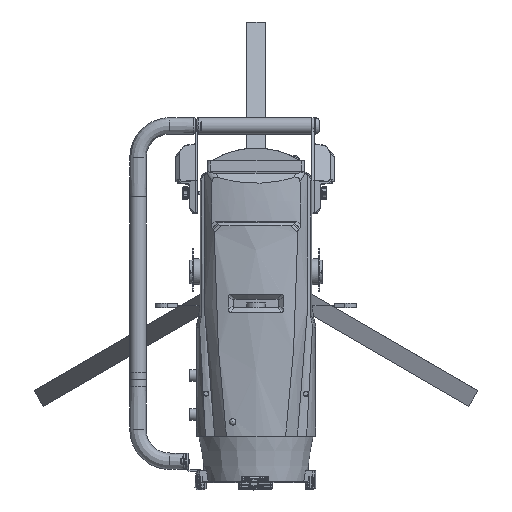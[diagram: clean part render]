
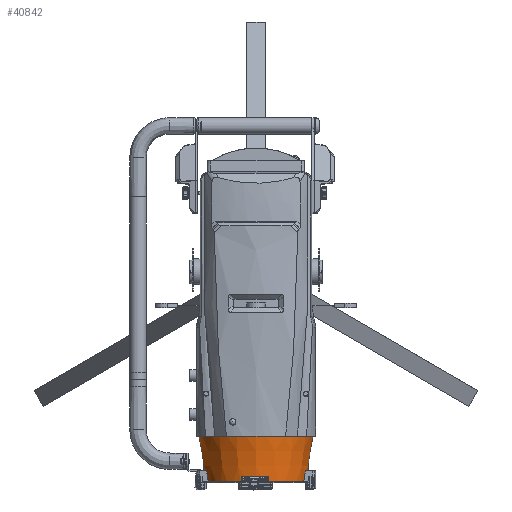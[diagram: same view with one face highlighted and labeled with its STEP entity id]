
A CAD part, top view. The second image highlights one B-rep face of the part: STEP entity #40842.
In plain terms, the highlighted conical face has half-angle 8 degrees and reference radius 109.134 mm.
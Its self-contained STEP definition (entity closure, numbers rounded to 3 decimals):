
#1069=CONICAL_SURFACE('',#43756,109.134,0.14);
#1882=B_SPLINE_CURVE_WITH_KNOTS('',3,(#57780,#57781,#57782,#57783),
 .UNSPECIFIED.,.F.,.F.,(4,4),(0.045,0.065),
 .UNSPECIFIED.);
#1883=B_SPLINE_CURVE_WITH_KNOTS('',3,(#57788,#57789,#57790,#57791),
 .UNSPECIFIED.,.F.,.F.,(4,4),(0.045,0.065),
 .UNSPECIFIED.);
#1884=B_SPLINE_CURVE_WITH_KNOTS('',3,(#57795,#57796,#57797,#57798),
 .UNSPECIFIED.,.F.,.F.,(4,4),(0.045,0.065),
 .UNSPECIFIED.);
#1885=B_SPLINE_CURVE_WITH_KNOTS('',3,(#57802,#57803,#57804,#57805),
 .UNSPECIFIED.,.F.,.F.,(4,4),(0.045,0.065),
 .UNSPECIFIED.);
#1886=B_SPLINE_CURVE_WITH_KNOTS('',3,(#57809,#57810,#57811,#57812),
 .UNSPECIFIED.,.F.,.F.,(4,4),(0.045,0.065),
 .UNSPECIFIED.);
#1887=B_SPLINE_CURVE_WITH_KNOTS('',3,(#57816,#57817,#57818,#57819),
 .UNSPECIFIED.,.F.,.F.,(4,4),(0.045,0.065),
 .UNSPECIFIED.);
#3873=CIRCLE('',#43757,99.765);
#3874=CIRCLE('',#43758,96.978);
#3875=CIRCLE('',#43759,99.765);
#3876=CIRCLE('',#43760,96.978);
#3877=CIRCLE('',#43761,99.765);
#3878=CIRCLE('',#43762,96.978);
#3879=CIRCLE('',#43763,109.134);
#3880=CIRCLE('',#43764,109.134);
#6786=ORIENTED_EDGE('',*,*,#18139,.F.);
#6787=ORIENTED_EDGE('',*,*,#18140,.T.);
#6788=ORIENTED_EDGE('',*,*,#18141,.F.);
#6789=ORIENTED_EDGE('',*,*,#18142,.T.);
#6790=ORIENTED_EDGE('',*,*,#18143,.F.);
#6791=ORIENTED_EDGE('',*,*,#18144,.T.);
#6792=ORIENTED_EDGE('',*,*,#18145,.F.);
#6793=ORIENTED_EDGE('',*,*,#18146,.T.);
#6794=ORIENTED_EDGE('',*,*,#18147,.T.);
#6795=ORIENTED_EDGE('',*,*,#18148,.F.);
#6796=ORIENTED_EDGE('',*,*,#18149,.T.);
#6797=ORIENTED_EDGE('',*,*,#18150,.T.);
#6798=ORIENTED_EDGE('',*,*,#18151,.F.);
#6799=ORIENTED_EDGE('',*,*,#18152,.F.);
#18139=EDGE_CURVE('',#23839,#23840,#1882,.T.);
#18140=EDGE_CURVE('',#23839,#23841,#3873,.F.);
#18141=EDGE_CURVE('',#23842,#23841,#1883,.T.);
#18142=EDGE_CURVE('',#23842,#23843,#3874,.T.);
#18143=EDGE_CURVE('',#23844,#23843,#1884,.T.);
#18144=EDGE_CURVE('',#23844,#23845,#3875,.F.);
#18145=EDGE_CURVE('',#23846,#23845,#1885,.T.);
#18146=EDGE_CURVE('',#23846,#23847,#3876,.T.);
#18147=EDGE_CURVE('',#23847,#23848,#1886,.T.);
#18148=EDGE_CURVE('',#23849,#23848,#3877,.F.);
#18149=EDGE_CURVE('',#23849,#23850,#1887,.T.);
#18150=EDGE_CURVE('',#23850,#23840,#3878,.T.);
#18151=EDGE_CURVE('',#23851,#23852,#3879,.T.);
#18152=EDGE_CURVE('',#23852,#23851,#3880,.T.);
#23839=VERTEX_POINT('',#57784);
#23840=VERTEX_POINT('',#57785);
#23841=VERTEX_POINT('',#57787);
#23842=VERTEX_POINT('',#57792);
#23843=VERTEX_POINT('',#57794);
#23844=VERTEX_POINT('',#57799);
#23845=VERTEX_POINT('',#57801);
#23846=VERTEX_POINT('',#57806);
#23847=VERTEX_POINT('',#57808);
#23848=VERTEX_POINT('',#57813);
#23849=VERTEX_POINT('',#57815);
#23850=VERTEX_POINT('',#57820);
#23851=VERTEX_POINT('',#57823);
#23852=VERTEX_POINT('',#57824);
#31175=EDGE_LOOP('',(#6786,#6787,#6788,#6789,#6790,#6791,#6792,#6793,#6794,
#6795,#6796,#6797));
#31176=EDGE_LOOP('',(#6798,#6799));
#34560=FACE_BOUND('',#31175,.T.);
#34561=FACE_BOUND('',#31176,.T.);
#40842=ADVANCED_FACE('',(#34560,#34561),#1069,.T.);
#43756=AXIS2_PLACEMENT_3D('',#57779,#47996,#47997);
#43757=AXIS2_PLACEMENT_3D('',#57786,#47998,#47999);
#43758=AXIS2_PLACEMENT_3D('',#57793,#48000,#48001);
#43759=AXIS2_PLACEMENT_3D('',#57800,#48002,#48003);
#43760=AXIS2_PLACEMENT_3D('',#57807,#48004,#48005);
#43761=AXIS2_PLACEMENT_3D('',#57814,#48006,#48007);
#43762=AXIS2_PLACEMENT_3D('',#57821,#48008,#48009);
#43763=AXIS2_PLACEMENT_3D('',#57822,#48010,#48011);
#43764=AXIS2_PLACEMENT_3D('',#57825,#48012,#48013);
#47996=DIRECTION('',(0.,1.,0.));
#47997=DIRECTION('',(0.,0.,-1.));
#47998=DIRECTION('',(0.,-1.,0.));
#47999=DIRECTION('',(0.,0.,-1.));
#48000=DIRECTION('',(0.,1.,0.));
#48001=DIRECTION('',(0.,0.,1.));
#48002=DIRECTION('',(0.,-1.,0.));
#48003=DIRECTION('',(0.,0.,-1.));
#48004=DIRECTION('',(0.,1.,0.));
#48005=DIRECTION('',(0.,0.,1.));
#48006=DIRECTION('',(0.,1.,0.));
#48007=DIRECTION('',(0.,0.,1.));
#48008=DIRECTION('',(0.,1.,0.));
#48009=DIRECTION('',(0.,0.,1.));
#48010=DIRECTION('',(0.,1.,0.));
#48011=DIRECTION('',(-1.,0.,0.));
#48012=DIRECTION('',(0.,1.,0.));
#48013=DIRECTION('',(-1.,0.,0.));
#57779=CARTESIAN_POINT('',(0.,-404.81,0.));
#57780=CARTESIAN_POINT('',(-32.475,-471.475,94.332));
#57781=CARTESIAN_POINT('',(-32.475,-478.087,93.349));
#57782=CARTESIAN_POINT('',(-32.475,-484.699,92.365));
#57783=CARTESIAN_POINT('',(-32.475,-491.31,91.378));
#57784=CARTESIAN_POINT('',(-32.475,-471.475,94.332));
#57785=CARTESIAN_POINT('',(-32.475,-491.31,91.378));
#57786=CARTESIAN_POINT('',(0.,-471.475,0.));
#57787=CARTESIAN_POINT('',(32.475,-471.475,94.332));
#57788=CARTESIAN_POINT('',(32.475,-491.31,91.378));
#57789=CARTESIAN_POINT('',(32.475,-484.699,92.365));
#57790=CARTESIAN_POINT('',(32.475,-478.087,93.349));
#57791=CARTESIAN_POINT('',(32.475,-471.475,94.332));
#57792=CARTESIAN_POINT('',(32.475,-491.31,91.378));
#57793=CARTESIAN_POINT('',(0.,-491.31,0.));
#57794=CARTESIAN_POINT('',(91.378,-491.31,32.475));
#57795=CARTESIAN_POINT('',(94.332,-471.475,32.475));
#57796=CARTESIAN_POINT('',(93.349,-478.087,32.475));
#57797=CARTESIAN_POINT('',(92.365,-484.699,32.475));
#57798=CARTESIAN_POINT('',(91.378,-491.31,32.475));
#57799=CARTESIAN_POINT('',(94.332,-471.475,32.475));
#57800=CARTESIAN_POINT('',(0.,-471.475,0.));
#57801=CARTESIAN_POINT('',(94.332,-471.475,-32.475));
#57802=CARTESIAN_POINT('',(91.378,-491.31,-32.475));
#57803=CARTESIAN_POINT('',(92.365,-484.699,-32.475));
#57804=CARTESIAN_POINT('',(93.349,-478.087,-32.475));
#57805=CARTESIAN_POINT('',(94.332,-471.475,-32.475));
#57806=CARTESIAN_POINT('',(91.378,-491.31,-32.475));
#57807=CARTESIAN_POINT('',(0.,-491.31,0.));
#57808=CARTESIAN_POINT('',(-91.378,-491.31,-32.475));
#57809=CARTESIAN_POINT('',(-91.378,-491.31,-32.475));
#57810=CARTESIAN_POINT('',(-92.365,-484.699,-32.475));
#57811=CARTESIAN_POINT('',(-93.349,-478.087,-32.475));
#57812=CARTESIAN_POINT('',(-94.332,-471.475,-32.475));
#57813=CARTESIAN_POINT('',(-94.332,-471.475,-32.475));
#57814=CARTESIAN_POINT('',(0.,-471.475,0.));
#57815=CARTESIAN_POINT('',(-94.332,-471.475,32.475));
#57816=CARTESIAN_POINT('',(-94.332,-471.475,32.475));
#57817=CARTESIAN_POINT('',(-93.349,-478.087,32.475));
#57818=CARTESIAN_POINT('',(-92.365,-484.699,32.475));
#57819=CARTESIAN_POINT('',(-91.378,-491.31,32.475));
#57820=CARTESIAN_POINT('',(-91.378,-491.31,32.475));
#57821=CARTESIAN_POINT('',(0.,-491.31,0.));
#57822=CARTESIAN_POINT('',(0.,-404.81,0.));
#57823=CARTESIAN_POINT('',(0.,-404.81,109.134));
#57824=CARTESIAN_POINT('',(0.,-404.81,-109.134));
#57825=CARTESIAN_POINT('',(0.,-404.81,0.));
